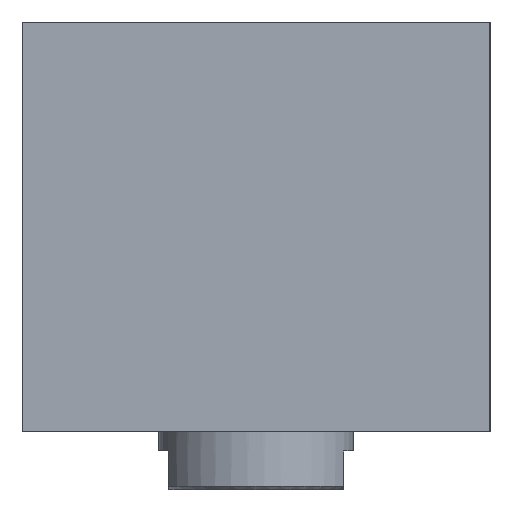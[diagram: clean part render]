
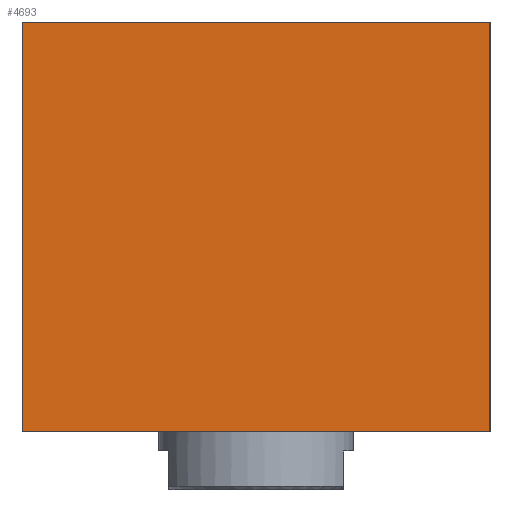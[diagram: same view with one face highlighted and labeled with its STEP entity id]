
A CAD part, left-side view. The second image highlights one B-rep face of the part: STEP entity #4693.
In plain terms, the highlighted planar face has unit normal (-1, 0, 0).
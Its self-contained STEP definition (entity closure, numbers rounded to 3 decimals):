
#319 = VERTEX_POINT ( 'NONE', #4012 ) ;
#764 = ORIENTED_EDGE ( 'NONE', *, *, #11314, .T. ) ;
#1460 = DIRECTION ( 'NONE',  ( 0., 0., 1. ) ) ;
#1582 = VERTEX_POINT ( 'NONE', #8438 ) ;
#2162 = VERTEX_POINT ( 'NONE', #15178 ) ;
#2654 = VECTOR ( 'NONE', #7406, 1000. ) ;
#2976 = EDGE_CURVE ( 'NONE', #2162, #319, #16066, .T. ) ;
#4012 = CARTESIAN_POINT ( 'NONE',  ( -70., 120., 52.5 ) ) ;
#4500 = CARTESIAN_POINT ( 'NONE',  ( -70., 120., -52.5 ) ) ;
#4693 = ADVANCED_FACE ( 'NONE', ( #8321 ), #12776, .F. ) ;
#6372 = DIRECTION ( 'NONE',  ( 0., -1., 0. ) ) ;
#7361 = DIRECTION ( 'NONE',  ( 0., 0., -1. ) ) ;
#7406 = DIRECTION ( 'NONE',  ( 0., 0., 1. ) ) ;
#7570 = VERTEX_POINT ( 'NONE', #12746 ) ;
#7973 = VECTOR ( 'NONE', #15986, 1000. ) ;
#8172 = EDGE_LOOP ( 'NONE', ( #9685, #15313, #9007, #764 ) ) ;
#8321 = FACE_OUTER_BOUND ( 'NONE', #8172, .T. ) ;
#8438 = CARTESIAN_POINT ( 'NONE',  ( -70., 0., -52.5 ) ) ;
#9007 = ORIENTED_EDGE ( 'NONE', *, *, #2976, .F. ) ;
#9018 = VECTOR ( 'NONE', #1460, 1000. ) ;
#9100 = VECTOR ( 'NONE', #6372, 1000. ) ;
#9543 = LINE ( 'NONE', #17176, #9100 ) ;
#9685 = ORIENTED_EDGE ( 'NONE', *, *, #13069, .T. ) ;
#10156 = LINE ( 'NONE', #11547, #2654 ) ;
#11314 = EDGE_CURVE ( 'NONE', #2162, #1582, #9543, .T. ) ;
#11547 = CARTESIAN_POINT ( 'NONE',  ( -70., 0., -52.5 ) ) ;
#11604 = LINE ( 'NONE', #16036, #7973 ) ;
#12207 = EDGE_CURVE ( 'NONE', #319, #7570, #11604, .T. ) ;
#12746 = CARTESIAN_POINT ( 'NONE',  ( -70., 0., 52.5 ) ) ;
#12776 = PLANE ( 'NONE',  #13552 ) ;
#13069 = EDGE_CURVE ( 'NONE', #1582, #7570, #10156, .T. ) ;
#13552 = AXIS2_PLACEMENT_3D ( 'NONE', #4500, #15427, #7361 ) ;
#14977 = CARTESIAN_POINT ( 'NONE',  ( -70., 120., -52.5 ) ) ;
#15178 = CARTESIAN_POINT ( 'NONE',  ( -70., 120., -52.5 ) ) ;
#15313 = ORIENTED_EDGE ( 'NONE', *, *, #12207, .F. ) ;
#15427 = DIRECTION ( 'NONE',  ( 1., 0., 0. ) ) ;
#15986 = DIRECTION ( 'NONE',  ( 0., -1., 0. ) ) ;
#16036 = CARTESIAN_POINT ( 'NONE',  ( -70., 120., 52.5 ) ) ;
#16066 = LINE ( 'NONE', #14977, #9018 ) ;
#17176 = CARTESIAN_POINT ( 'NONE',  ( -70., 120., -52.5 ) ) ;
